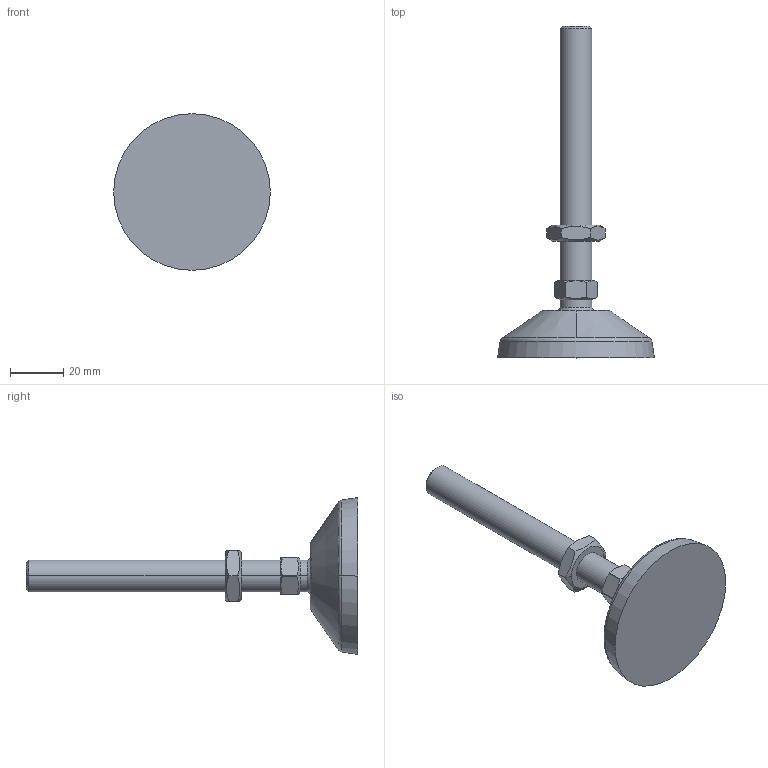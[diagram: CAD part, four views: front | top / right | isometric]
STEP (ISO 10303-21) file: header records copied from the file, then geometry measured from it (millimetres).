
FILE_DESCRIPTION (( 'STEP AP203' ), '1' );
FILE_NAME ('30022_STE8.60M12130.STEP', '2018-05-24T11:46:02', ( '' ), ( '' ), 'SwSTEP 2.0', 'SolidWorks 2017', '' );
FILE_SCHEMA (( 'CONFIG_CONTROL_DESIGN' ));
Length unit declared in the file: millimetre
Products named in the file (1): 30022_STE8.60M12130
Bounding box: 59 x 125 x 59 mm (x, y, z)
Volume: 47301.3 mm3; surface area: 11982.8 mm2
Topology: 1 solids, 1 shells, 72 faces, 166 edges, 101 vertices
Faces by surface type: plane 24, cone 19, cylinder 15, bspline 14
Entity records: 2721 total; most frequent: CARTESIAN_POINT 1108, ORIENTED_EDGE 332, DIRECTION 310, EDGE_CURVE 166, AXIS2_PLACEMENT_3D 135, VERTEX_POINT 101, EDGE_LOOP 77, CIRCLE 76
